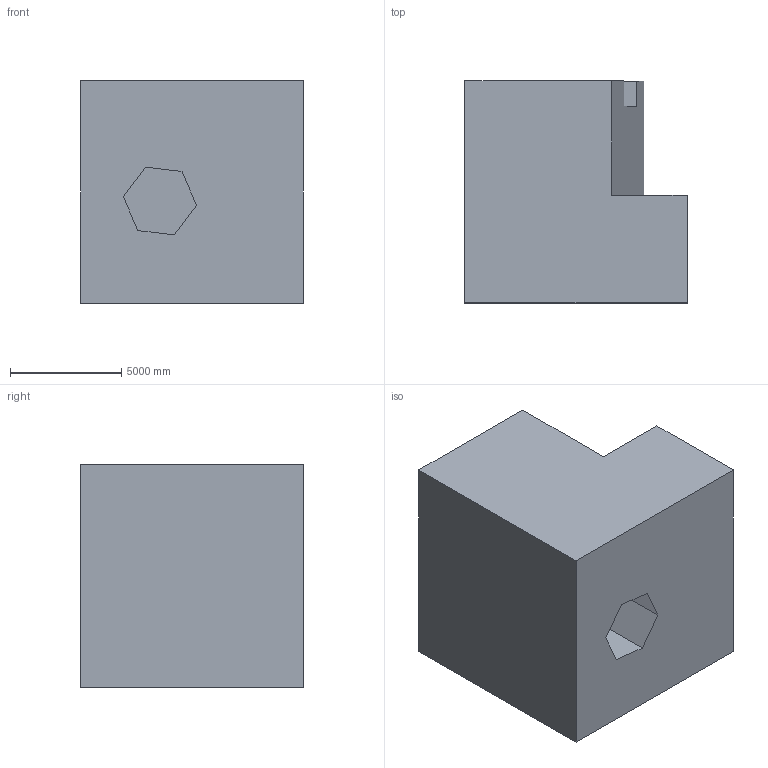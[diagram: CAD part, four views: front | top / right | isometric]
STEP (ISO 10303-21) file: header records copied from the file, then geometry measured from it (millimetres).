
FILE_DESCRIPTION (( 'STEP AP203' ), '1' );
FILE_NAME ('222.STEP', '2022-07-28T13:57:11', ( 'user' ), ( '' ), 'SwSTEP 2.0', 'SolidWorks 2021', '' );
FILE_SCHEMA (( 'CONFIG_CONTROL_DESIGN' ));
Length unit declared in the file: centimetre
Products named in the file (1): 222
Bounding box: 10000 x 10000 x 10000 mm (x, y, z)
Volume: 823619510787 mm3; surface area: 620520381.4 mm2
Topology: 1 solids, 1 shells, 19 faces, 48 edges, 32 vertices
Faces by surface type: plane 19
Entity records: 639 total; most frequent: CARTESIAN_POINT 100, ORIENTED_EDGE 96, DIRECTION 88, EDGE_CURVE 48, LINE 48, VECTOR 48, VERTEX_POINT 32, EDGE_LOOP 20
